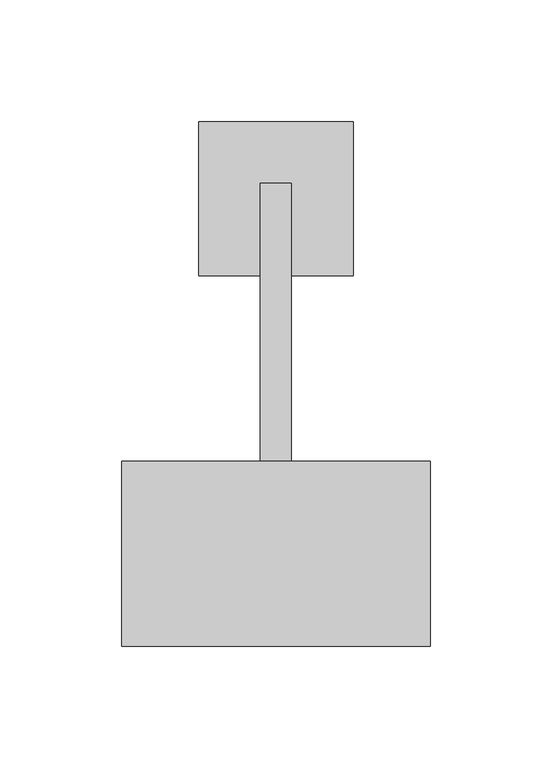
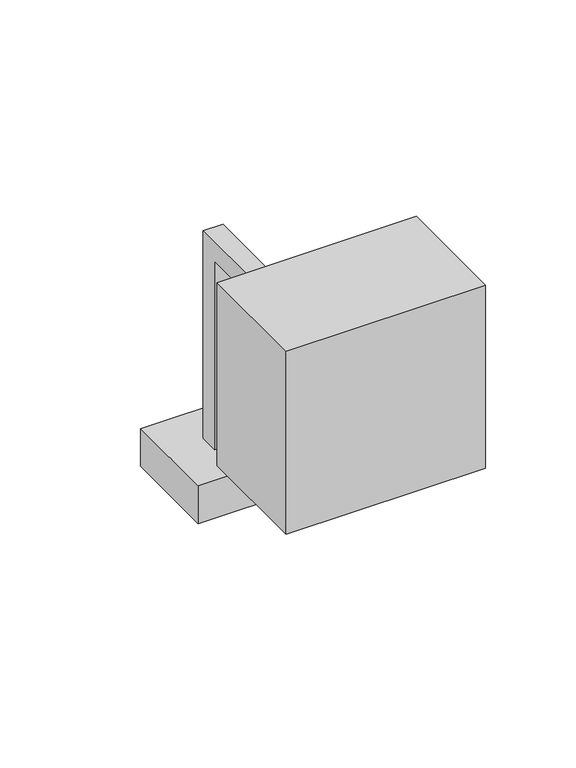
"""IFC4 building model written with IfcOpenShell, lengths in millimetres: light fixture geometry, C_Sconce Downwards : 33700 ICARIA White ceiling fan / Wood Blade."""

from ifc_helpers import new_model, si_unit, frame, origin, place, context, project, spatial, polyline, outline, extrude, faceted_brep, source, transform, mapped, element, save


def light_fixture_d200bb49(model_context):
    return source(origin(), model_context, "Body", "SolidModel", [
        faceted_brep([(-31.75, -31.75, 25.4), (31.75, -31.75, 25.4), (31.75, 31.75, 25.4), (-31.75, 31.75, 25.4), (6.35, 6.35, 25.4), (6.35, -6.35, 25.4), (-6.35, -6.35, 25.4), (-6.35, 6.35, 25.4), (-31.75, -31.75, 0.0), (-31.75, 31.75, 0.0), (31.75, 31.75, 0.0), (31.75, -31.75, 0.0), (6.35, 6.35, 165.1), (6.35, -107.95, 165.1), (6.35, -107.95, 152.4), (6.35, -6.35, 152.4), (-6.35, -6.35, 152.4), (-6.35, -107.95, 152.4), (-6.35, -107.95, 165.1), (-6.35, 6.35, 165.1)], [[[0, 1, 2, 3], [4, 5, 6, 7]], [[8, 9, 10, 11]], [[0, 3, 9, 8]], [[3, 2, 10, 9]], [[2, 1, 11, 10]], [[1, 0, 8, 11]], [[12, 13, 14, 15, 5, 4]], [[16, 17, 18, 19, 7, 6]], [[15, 16, 6, 5]], [[19, 12, 4, 7]], [[13, 12, 19, 18]], [[14, 13, 18, 17]], [[15, 14, 17, 16]]]),
        extrude(outline(polyline([(63.5, -107.95), (63.5, -184.15), (-63.5, -184.15), (-63.5, -107.95), (63.5, -107.95)])), frame((0.0, 0.0, 96.3177809), z_axis=(0.0, 0.0, 1.0), x_axis=(1.0, 0.0, 0.0)), (0.0, 0.0, 1.0), 123.2911095),
    ])


if __name__ == "__main__":
    model = new_model("IFC4")
    model_context = context("Model", 3, world=origin())
    ifc_project = project(units=[si_unit("LENGTHUNIT", "METRE", prefix="MILLI")], contexts=[model_context])
    site = spatial("IfcSite", under=ifc_project)
    building = spatial("IfcBuilding", under=site)
    placement = place(None, origin())
    light_fixture_shape = light_fixture_d200bb49(model_context)
    element("IfcLightFixture", 1, ObjectType="C_Sconce Downwards : 33700 ICARIA White ceiling fan / Wood Blade", at=placement, inside=building, context=model_context, shape_type="MappedRepresentation", body=[
        mapped(light_fixture_shape, transform((0.0, 0.0, 0.0), x_axis=(1.0, 0.0, 0.0), y_axis=(0.0, 1.0, 0.0), z_axis=(0.0, 0.0, 1.0))),
    ])
    save(model, "model.ifc")
